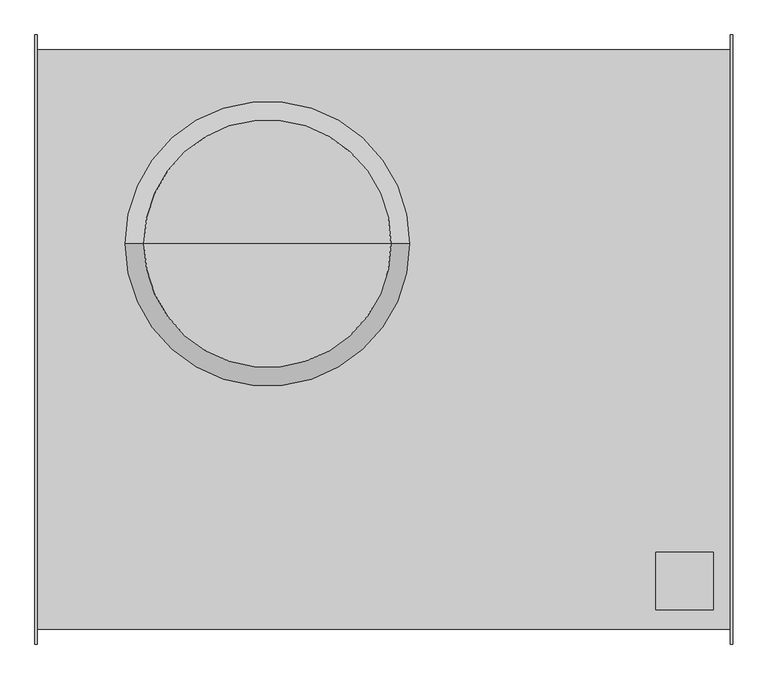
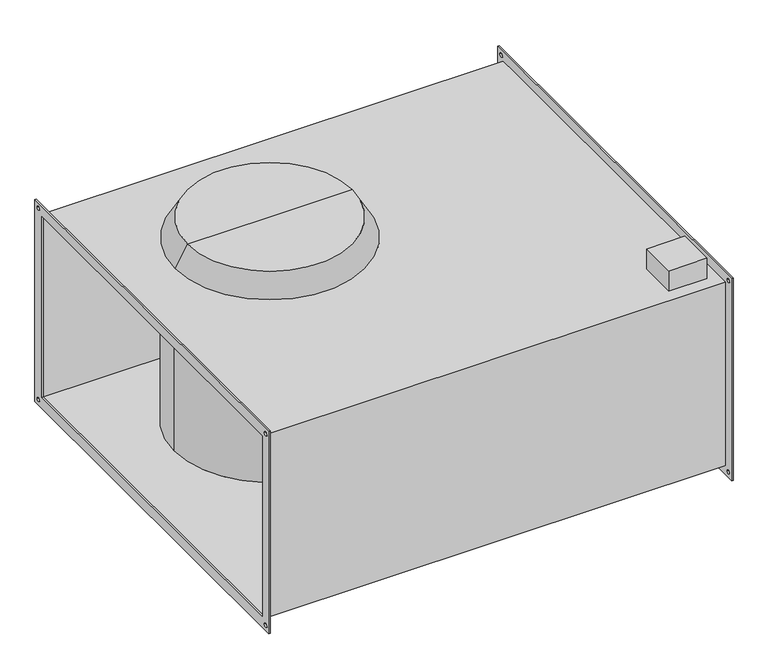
"""IFC4 building model written with IfcOpenShell, lengths in millimetres: proxy geometry, СВ_Вентилятор_КанальныйПрямоугольный_200-1000_SVP-SVPH : SVP-1000x500/630.4D."""

from ifc_helpers import new_model, si_unit, point, frame, frame_2d, origin, place, context, project, spatial, polyline, circle_curve, trimmed, segment, composite_curve, outline, extrude, source, transform, mapped, element, save
from ifc_brep_helpers import plane_surface, cylinder_surface, revolved_surface, advanced_brep


def mechanical_equipment_c179e901(model_context):
    return source(origin(), model_context, "Body", "SolidModel", [
        extrude(outline(polyline([(530.0, 280.0), (530.0, -280.0), (-530.0, -280.0), (-530.0, 280.0), (530.0, 280.0)]), holes=[polyline([(500.0, 250.0), (-500.0, 250.0), (-500.0, -250.0), (500.0, -250.0), (500.0, 250.0)]), composite_curve([segment(trimmed(circle_curve(frame_2d((515.0, 265.0)), 5.0), [point((510.0, 265.0))], [point((520.0, 265.0))], True, "CARTESIAN"), True, "CONTINUOUS"), segment(trimmed(circle_curve(frame_2d((515.0, 265.0)), 5.0), [point((520.0, 265.0))], [point((510.0, 265.0))], True, "CARTESIAN"), True, "CONTINUOUS")], self_intersect=False), composite_curve([segment(trimmed(circle_curve(frame_2d((-515.0, 265.0)), 5.0), [point((-520.0, 265.0))], [point((-510.0, 265.0))], True, "CARTESIAN"), True, "CONTINUOUS"), segment(trimmed(circle_curve(frame_2d((-515.0, 265.0)), 5.0), [point((-510.0, 265.0))], [point((-520.0, 265.0))], True, "CARTESIAN"), True, "CONTINUOUS")], self_intersect=False), composite_curve([segment(trimmed(circle_curve(frame_2d((-515.0, -265.0)), 5.0), [point((-520.0, -265.0))], [point((-510.0, -265.0))], True, "CARTESIAN"), True, "CONTINUOUS"), segment(trimmed(circle_curve(frame_2d((-515.0, -265.0)), 5.0), [point((-510.0, -265.0))], [point((-520.0, -265.0))], True, "CARTESIAN"), True, "CONTINUOUS")], self_intersect=False), composite_curve([segment(trimmed(circle_curve(frame_2d((515.0, -265.0)), 5.0), [point((510.0, -265.0))], [point((520.0, -265.0))], True, "CARTESIAN"), True, "CONTINUOUS"), segment(trimmed(circle_curve(frame_2d((515.0, -265.0)), 5.0), [point((520.0, -265.0))], [point((510.0, -265.0))], True, "CARTESIAN"), True, "CONTINUOUS")], self_intersect=False)]), frame((603.5, 0.0, 0.0), z_axis=(1.0, 0.0, 0.0), x_axis=(0.0, 1.0, 0.0)), (0.0, 0.0, 1.0), 4.0),
        extrude(outline(polyline([(-530.0, 280.0), (530.0, 280.0), (530.0, -280.0), (-530.0, -280.0), (-530.0, 280.0)]), holes=[polyline([(-500.0, 250.0), (-500.0, -250.0), (500.0, -250.0), (500.0, 250.0), (-500.0, 250.0)]), composite_curve([segment(trimmed(circle_curve(frame_2d((515.0, 265.0)), 5.0), [point((510.0, 265.0))], [point((520.0, 265.0))], True, "CARTESIAN"), True, "CONTINUOUS"), segment(trimmed(circle_curve(frame_2d((515.0, 265.0)), 5.0), [point((520.0, 265.0))], [point((510.0, 265.0))], True, "CARTESIAN"), True, "CONTINUOUS")], self_intersect=False), composite_curve([segment(trimmed(circle_curve(frame_2d((-515.0, 265.0)), 5.0), [point((-520.0, 265.0))], [point((-510.0, 265.0))], True, "CARTESIAN"), True, "CONTINUOUS"), segment(trimmed(circle_curve(frame_2d((-515.0, 265.0)), 5.0), [point((-510.0, 265.0))], [point((-520.0, 265.0))], True, "CARTESIAN"), True, "CONTINUOUS")], self_intersect=False), composite_curve([segment(trimmed(circle_curve(frame_2d((-515.0, -265.0)), 5.0), [point((-520.0, -265.0))], [point((-510.0, -265.0))], True, "CARTESIAN"), True, "CONTINUOUS"), segment(trimmed(circle_curve(frame_2d((-515.0, -265.0)), 5.0), [point((-510.0, -265.0))], [point((-520.0, -265.0))], True, "CARTESIAN"), True, "CONTINUOUS")], self_intersect=False), composite_curve([segment(trimmed(circle_curve(frame_2d((515.0, -265.0)), 5.0), [point((510.0, -265.0))], [point((520.0, -265.0))], True, "CARTESIAN"), True, "CONTINUOUS"), segment(trimmed(circle_curve(frame_2d((515.0, -265.0)), 5.0), [point((520.0, -265.0))], [point((510.0, -265.0))], True, "CARTESIAN"), True, "CONTINUOUS")], self_intersect=False)]), frame((-607.5, 0.0, 0.0), z_axis=(1.0, 0.0, 0.0), x_axis=(0.0, 1.0, 0.0)), (0.0, 0.0, 1.0), 4.0),
        advanced_brep(
        [(-202.5, 166.6666667, 310.0), (-417.8589838, 166.6666667, 310.0), (12.8589838, 166.6666667, 310.0), (-452.5, 166.6666667, 250.0), (-452.5, 166.6666667, -250.0), (47.5, 166.6666667, -250.0), (47.5, 166.6666667, 250.0), (603.5, -504.0, 254.0), (603.5, -504.0, -254.0), (603.5, 504.0, -254.0), (603.5, 504.0, 254.0), (603.5, 500.0, 250.0), (603.5, 500.0, -250.0), (603.5, -500.0, -250.0), (603.5, -500.0, 250.0), (-603.5, -504.0, 254.0), (-603.5, 504.0, 254.0), (-603.5, 504.0, -254.0), (-603.5, -504.0, -254.0), (-603.5, 500.0, 250.0), (-603.5, -500.0, 250.0), (-603.5, -500.0, -250.0), (-603.5, 500.0, -250.0), (473.5, -370.0, 254.0), (573.5, -370.0, 254.0), (573.5, -470.0, 254.0), (473.5, -470.0, 254.0), (45.1905989, 166.6666667, 254.0), (-450.1905989, 166.6666667, 254.0), (573.5, -370.0, 310.0), (473.5, -370.0, 310.0), (473.5, -470.0, 310.0), (573.5, -470.0, 310.0)],
        [
            (0, 1),
            (1, 2, circle_curve(frame((-202.5, 166.6666667, 310.0), z_axis=(0.0, 0.0, 1.0), x_axis=(-1.0, 0.0, 0.0)), 215.3589838)),
            (2, 0),
            (2, 1, circle_curve(frame((-202.5, 166.6666667, 310.0), z_axis=(0.0, 0.0, 1.0), x_axis=(-1.0, 0.0, 0.0)), 215.3589838)),
            (3, 4),
            (4, 5, circle_curve(frame((-202.5, 166.6666667, -250.0), z_axis=(0.0, 0.0, 1.0), x_axis=(-1.0, 0.0, 0.0)), 250.0)),
            (5, 6),
            (6, 3, circle_curve(frame((-202.5, 166.6666667, 250.0), z_axis=(0.0, 0.0, -1.0), x_axis=(-1.0, 0.0, 0.0)), 250.0)),
            (3, 6, circle_curve(frame((-202.5, 166.6666667, 250.0), z_axis=(0.0, 0.0, -1.0), x_axis=(-1.0, 0.0, 0.0)), 250.0)),
            (5, 4, circle_curve(frame((-202.5, 166.6666667, -250.0), z_axis=(0.0, 0.0, 1.0), x_axis=(-1.0, 0.0, 0.0)), 250.0)),
            (7, 8),
            (8, 9),
            (9, 10),
            (10, 7),
            (11, 12),
            (12, 13),
            (13, 14),
            (14, 11),
            (15, 16),
            (16, 17),
            (17, 18),
            (18, 15),
            (19, 20),
            (20, 21),
            (21, 22),
            (22, 19),
            (11, 19),
            (22, 12),
            (21, 13),
            (20, 14),
            (7, 15),
            (18, 8),
            (17, 9),
            (16, 10),
            (23, 24),
            (24, 25),
            (25, 26),
            (26, 23),
            (27, 28, circle_curve(frame((-202.5, 166.6666667, 254.0), z_axis=(0.0, 0.0, -1.0), x_axis=(-1.0, 0.0, 0.0)), 247.6905989)),
            (28, 27, circle_curve(frame((-202.5, 166.6666667, 254.0), z_axis=(0.0, 0.0, -1.0), x_axis=(-1.0, 0.0, 0.0)), 247.6905989)),
            (29, 30),
            (30, 31),
            (31, 32),
            (32, 29),
            (29, 24),
            (23, 30),
            (26, 31),
            (25, 32),
            (1, 28),
            (27, 2),
        ],
        [
            plane_surface(frame((-202.5, 166.6666667, 310.0), z_axis=(0.0, 0.0, 1.0), x_axis=(-1.0, 0.0, 0.0))),
            cylinder_surface(frame((-202.5, 166.6666667, 2585.3096565), z_axis=(0.0, 0.0, 1.0), x_axis=(-1.0, 0.0, 0.0)), 250.0),
            plane_surface(frame((603.5, 500.0, -250.0), z_axis=(1.0, 0.0, 0.0), x_axis=(0.0, 0.0, -1.0))),
            plane_surface(frame((-603.5, 500.0, -250.0), z_axis=(-1.0, 0.0, 0.0), x_axis=(0.0, 0.0, 1.0))),
            plane_surface(frame((603.5, 500.0, 250.0), z_axis=(0.0, -1.0, 0.0), x_axis=(-1.0, 0.0, 0.0))),
            plane_surface(frame((603.5, 500.0, -250.0), z_axis=(0.0, 0.0, 1.0), x_axis=(-1.0, 0.0, 0.0))),
            plane_surface(frame((603.5, -500.0, -250.0), z_axis=(0.0, 1.0, 0.0), x_axis=(-1.0, 0.0, 0.0))),
            plane_surface(frame((603.5, -500.0, 250.0), z_axis=(0.0, 0.0, -1.0), x_axis=(-1.0, 0.0, 0.0))),
            plane_surface(frame((603.5, -504.0, 254.0), z_axis=(0.0, -1.0, 0.0), x_axis=(-1.0, 0.0, 0.0))),
            plane_surface(frame((603.5, -504.0, -254.0), z_axis=(0.0, 0.0, -1.0), x_axis=(-1.0, 0.0, 0.0))),
            plane_surface(frame((603.5, 504.0, -254.0), z_axis=(0.0, 1.0, 0.0), x_axis=(-1.0, 0.0, 0.0))),
            plane_surface(frame((603.5, 504.0, 254.0), z_axis=(0.0, 0.0, 1.0), x_axis=(-1.0, 0.0, 0.0))),
            plane_surface(frame((473.5, -370.0, 310.0), z_axis=(0.0, 0.0, 1.0), x_axis=(-1.0, 0.0, 0.0))),
            plane_surface(frame((573.5, -370.0, 310.0), z_axis=(0.0, 1.0, 0.0), x_axis=(0.0, 0.0, -1.0))),
            plane_surface(frame((473.5, -370.0, 310.0), z_axis=(-1.0, 0.0, 0.0), x_axis=(0.0, 0.0, -1.0))),
            plane_surface(frame((473.5, -470.0, 310.0), z_axis=(0.0, -1.0, 0.0), x_axis=(0.0, 0.0, -1.0))),
            plane_surface(frame((573.5, -470.0, 310.0), z_axis=(1.0, 0.0, 0.0), x_axis=(0.0, 0.0, -1.0))),
            revolved_surface(polyline([(-452.5, 166.6666667, 250.0), (-417.8589838, 166.6666667, 310.0)]), (-202.5, 166.6666667, 2585.3096565), (0.0, 0.0, 1.0)),
        ],
        [
            (0, [[1, 2, 3]]),
            (0, [[-1, -3, 4]]),
            (1, [[5, 6, 7, 8]]),
            (1, [[-5, 9, -7, 10]]),
            (2, [[11, 12, 13, 14], [15, 16, 17, 18]]),
            (3, [[19, 20, 21, 22], [23, 24, 25, 26]]),
            (4, [[-15, 27, -26, 28]]),
            (5, [[-16, -28, -25, 29], [-6, -10]]),
            (6, [[-17, -29, -24, 30]]),
            (7, [[-18, -30, -23, -27], [-8, -9]]),
            (8, [[-11, 31, -22, 32]]),
            (9, [[-12, -32, -21, 33]]),
            (10, [[-13, -33, -20, 34]]),
            (11, [[-14, -34, -19, -31], [35, 36, 37, 38], [39, 40]]),
            (12, [[41, 42, 43, 44]]),
            (13, [[-41, 45, -35, 46]]),
            (14, [[-42, -46, -38, 47]]),
            (15, [[-43, -47, -37, 48]]),
            (16, [[-44, -48, -36, -45]]),
            (17, [[-2, 49, -39, 50]]),
            (17, [[-4, -50, -40, -49]]),
        ],
    ),
    ])


if __name__ == "__main__":
    model = new_model("IFC4")
    model_context = context("Model", 3, world=origin())
    ifc_project = project(units=[si_unit("LENGTHUNIT", "METRE", prefix="MILLI")], contexts=[model_context])
    site = spatial("IfcSite", under=ifc_project)
    building = spatial("IfcBuilding", under=site)
    placement = place(None, origin())
    mechanical_equipment_shape = mechanical_equipment_c179e901(model_context)
    element("IfcBuildingElementProxy", 1, Name="СВ_Вентилятор_КанальныйПрямоугольный_200-1000_SVP-SVPH : SVP-1000x500/630.4D", ObjectType="СВ_Вентилятор_КанальныйПрямоугольный_200-1000_SVP-SVPH : SVP-1000x500/630.4D", at=placement, inside=building, context=model_context, shape_type="MappedRepresentation", body=[
        mapped(mechanical_equipment_shape, transform((0.0, 0.0, 0.0), x_axis=(1.0, 0.0, 0.0), y_axis=(0.0, 1.0, 0.0), z_axis=(0.0, 0.0, 1.0))),
    ])
    save(model, "model.ifc")
